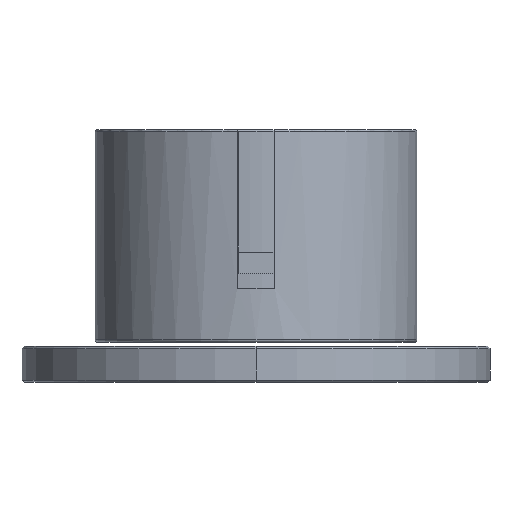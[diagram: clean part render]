
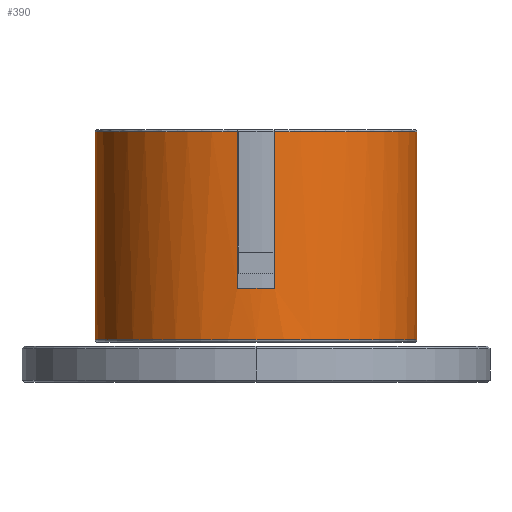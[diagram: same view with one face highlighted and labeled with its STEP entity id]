
A CAD part, front view. The second image highlights one B-rep face of the part: STEP entity #390.
In plain terms, the highlighted cylindrical face has radius 22.35 mm (diameter 44.7 mm), a partial arc.
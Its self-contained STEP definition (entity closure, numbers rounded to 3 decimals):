
#59=CARTESIAN_POINT('',(0.,0.,29.2));
#60=DIRECTION('',(0.,0.,1.));
#61=DIRECTION('',(-1.,0.,0.));
#62=AXIS2_PLACEMENT_3D('',#59,#60,#61);
#64=DIRECTION('',(0.,0.,1.));
#65=VECTOR('',#64,28.9);
#66=CARTESIAN_POINT('',(22.35,0.,0.3));
#67=LINE('',#66,#65);
#68=CARTESIAN_POINT('',(0.,0.,0.3));
#69=DIRECTION('',(0.,0.,1.));
#70=DIRECTION('',(0.116,-0.993,0.));
#71=AXIS2_PLACEMENT_3D('',#68,#69,#70);
#73=CARTESIAN_POINT('',(0.,0.,22.));
#74=DIRECTION('',(0.,0.,-1.));
#75=DIRECTION('',(0.116,-0.993,0.));
#76=AXIS2_PLACEMENT_3D('',#73,#74,#75);
#78=CARTESIAN_POINT('',(0.,0.,0.3));
#79=DIRECTION('',(0.,0.,1.));
#80=DIRECTION('',(-1.,0.,0.));
#81=AXIS2_PLACEMENT_3D('',#78,#79,#80);
#83=DIRECTION('',(0.,0.,1.));
#84=VECTOR('',#83,28.9);
#85=CARTESIAN_POINT('',(-22.35,0.,0.3));
#86=LINE('',#85,#84);
#122=CARTESIAN_POINT('',(-2.6,-22.198,0.3));
#131=DIRECTION('',(0.,0.,1.));
#132=VECTOR('',#131,21.7);
#133=CARTESIAN_POINT('',(-2.6,-22.198,0.3));
#134=LINE('',#133,#132);
#165=DIRECTION('',(0.,0.,-1.));
#166=VECTOR('',#165,21.7);
#167=CARTESIAN_POINT('',(2.6,-22.198,22.));
#168=LINE('',#167,#166);
#176=CARTESIAN_POINT('',(2.6,-22.198,0.3));
#249=CARTESIAN_POINT('',(2.6,-22.198,22.));
#250=CARTESIAN_POINT('',(-2.6,-22.198,22.));
#251=VERTEX_POINT('',#249);
#252=VERTEX_POINT('',#250);
#257=CARTESIAN_POINT('',(-22.35,0.,29.2));
#258=CARTESIAN_POINT('',(22.35,0.,29.2));
#259=VERTEX_POINT('',#257);
#260=VERTEX_POINT('',#258);
#261=VERTEX_POINT('',#122);
#263=CARTESIAN_POINT('',(-22.35,0.,0.3));
#264=VERTEX_POINT('',#263);
#269=CARTESIAN_POINT('',(22.35,0.,0.3));
#270=VERTEX_POINT('',#269);
#272=VERTEX_POINT('',#176);
#370=CARTESIAN_POINT('',(0.,0.,30.975));
#371=DIRECTION('',(0.,0.,-1.));
#372=DIRECTION('',(1.,0.,0.));
#373=AXIS2_PLACEMENT_3D('',#370,#371,#372);
#374=CYLINDRICAL_SURFACE('',#373,22.35);
#375=ORIENTED_EDGE('',*,*,#364,.T.);
#376=ORIENTED_EDGE('',*,*,#320,.F.);
#378=ORIENTED_EDGE('',*,*,#377,.F.);
#380=ORIENTED_EDGE('',*,*,#379,.F.);
#382=ORIENTED_EDGE('',*,*,#381,.T.);
#384=ORIENTED_EDGE('',*,*,#383,.F.);
#386=ORIENTED_EDGE('',*,*,#385,.F.);
#387=ORIENTED_EDGE('',*,*,#308,.T.);
#388=EDGE_LOOP('',(#375,#376,#378,#380,#382,#384,#386,#387));
#389=FACE_OUTER_BOUND('',#388,.F.);
#390=ADVANCED_FACE('',(#389),#374,.T.);
#63=CIRCLE('',#62,22.35);
#72=CIRCLE('',#71,22.35);
#77=CIRCLE('',#76,22.35);
#82=CIRCLE('',#81,22.35);
#308=EDGE_CURVE('',#264,#259,#86,.T.);
#320=EDGE_CURVE('',#270,#260,#67,.T.);
#364=EDGE_CURVE('',#259,#260,#63,.T.);
#377=EDGE_CURVE('',#272,#270,#72,.T.);
#379=EDGE_CURVE('',#251,#272,#168,.T.);
#381=EDGE_CURVE('',#251,#252,#77,.T.);
#383=EDGE_CURVE('',#261,#252,#134,.T.);
#385=EDGE_CURVE('',#264,#261,#82,.T.);
